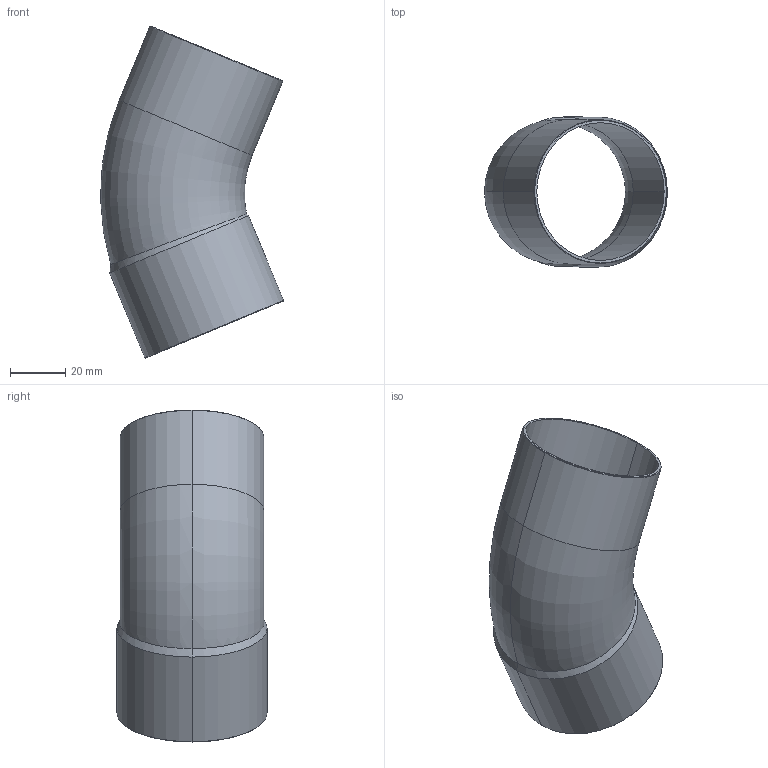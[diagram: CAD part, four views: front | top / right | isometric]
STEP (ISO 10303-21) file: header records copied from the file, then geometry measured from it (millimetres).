
FILE_DESCRIPTION((''),'2;1');
FILE_NAME('P:\Bouwmaten\z-maattekeningen 3D\5000\5040\1504052.stp','2005-10-05T11:45:29',('Kris'),(''),'Autodesk Inventor 8','Autodesk Inventor 8','');
FILE_SCHEMA(('AUTOMOTIVE_DESIGN { 1 0 10303 214 1 1 1 1 }'));
Length unit declared in the file: millimetre
Products named in the file (1): 1504052
Bounding box: 66.09 x 54.2 x 119.95 mm (x, y, z)
Volume: 18821.2 mm3; surface area: 34539.5 mm2
Topology: 1 solids, 1 shells, 24 faces, 50 edges, 28 vertices
Faces by surface type: cone 10, cylinder 8, torus 4, plane 2
Entity records: 729 total; most frequent: CARTESIAN_POINT 179, DIRECTION 124, ORIENTED_EDGE 100, AXIS2_PLACEMENT_3D 53, EDGE_CURVE 50, VERTEX_POINT 28, CIRCLE 28, EDGE_LOOP 26
